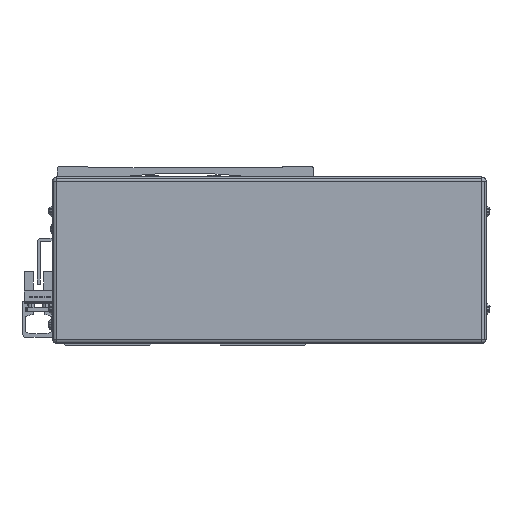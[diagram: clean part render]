
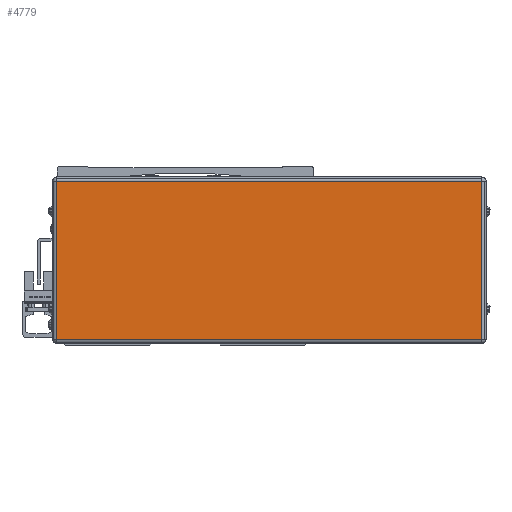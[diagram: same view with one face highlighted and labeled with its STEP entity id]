
A CAD part, front view. The second image highlights one B-rep face of the part: STEP entity #4779.
In plain terms, the highlighted planar face has unit normal (0, -1, 0).
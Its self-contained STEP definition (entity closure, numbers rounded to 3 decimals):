
#4779=ADVANCED_FACE('',(#10921),#10922,.T.);
#10921=FACE_OUTER_BOUND('',#19425,.T.);
#10922=PLANE('',#19426);
#19425=EDGE_LOOP('',(#33534,#33535,#33536,#33537));
#19426=AXIS2_PLACEMENT_3D('',#33538,#33539,#33540);
#33534=ORIENTED_EDGE('',*,*,#52077,.F.);
#33535=ORIENTED_EDGE('',*,*,#52078,.F.);
#33536=ORIENTED_EDGE('',*,*,#50262,.F.);
#33537=ORIENTED_EDGE('',*,*,#50530,.F.);
#33538=CARTESIAN_POINT('',(-259.5,-188.778,-8.));
#33539=DIRECTION('',(0.,-1.0,0.));
#33540=DIRECTION('',(1.0,0.,0.));
#50262=EDGE_CURVE('',#61291,#61293,#61294,.T.);
#50530=EDGE_CURVE('',#61729,#61291,#61731,.T.);
#52077=EDGE_CURVE('',#64060,#61729,#64061,.T.);
#52078=EDGE_CURVE('',#61293,#64060,#64062,.T.);
#61291=VERTEX_POINT('',#76462);
#61293=VERTEX_POINT('',#76464);
#61294=LINE('',#76465,#76466);
#61729=VERTEX_POINT('',#77054);
#61731=LINE('',#77056,#77057);
#64060=VERTEX_POINT('',#80476);
#64061=LINE('',#80477,#80478);
#64062=LINE('',#80479,#80480);
#76462=CARTESIAN_POINT('',(-361.7,-188.778,-46.));
#76464=CARTESIAN_POINT('',(-361.7,-188.778,30.));
#76465=CARTESIAN_POINT('',(-361.7,-188.778,-8.));
#76466=VECTOR('',#91664,10.0);
#77054=CARTESIAN_POINT('',(-157.3,-188.778,-46.));
#77056=CARTESIAN_POINT('',(-259.5,-188.778,-46.));
#77057=VECTOR('',#92029,10.0);
#80476=CARTESIAN_POINT('',(-157.3,-188.778,30.));
#80477=CARTESIAN_POINT('',(-157.3,-188.778,-8.));
#80478=VECTOR('',#93953,10.0);
#80479=CARTESIAN_POINT('',(-259.5,-188.778,30.));
#80480=VECTOR('',#93954,10.0);
#91664=DIRECTION('',(0.0,0.,1.0));
#92029=DIRECTION('',(-1.0,0.,0.));
#93953=DIRECTION('',(0.0,0.,-1.0));
#93954=DIRECTION('',(1.0,0.,0.));
